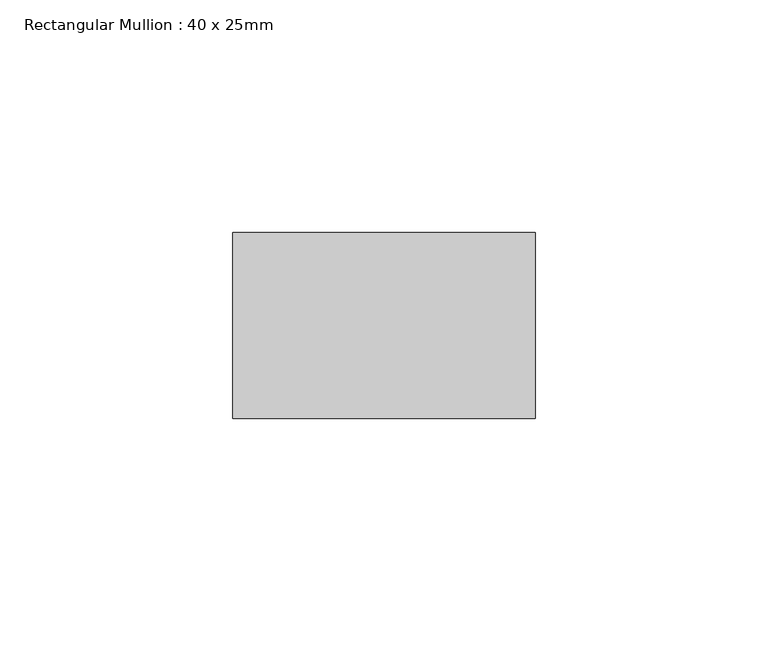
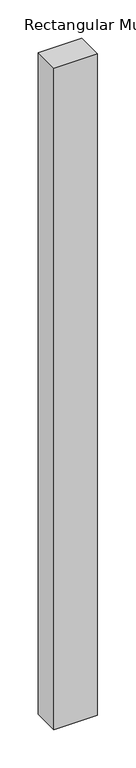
"""IFC4 building model written with IfcOpenShell, lengths in millimetres: member geometry, Rectangular Mullion : 40 x 25mm."""

from ifc_helpers import new_model, si_unit, frame, origin, place, context, project, spatial, polyline, outline, extrude, source, transform, mapped, element, save


def rectangular_mullion_40_x_25mm_e8c1a525(model_context):
    return source(origin(), model_context, "Body", "SweptSolid", [
        extrude(outline(polyline([(0.0, -20.0), (0.0, -60.0), (-65.0, -60.0), (-65.0, -20.0), (0.0, -20.0)])), frame((0.0, 0.0, -1048.555369), z_axis=(0.0, 0.0, 1.0), x_axis=(1.0, 0.0, 0.0)), (0.0, 0.0, 1.0), 1048.555369),
    ])


if __name__ == "__main__":
    model = new_model("IFC4")
    model_context = context("Model", 3, world=origin())
    ifc_project = project(units=[si_unit("LENGTHUNIT", "METRE", prefix="MILLI")], contexts=[model_context])
    site = spatial("IfcSite", under=ifc_project)
    building = spatial("IfcBuilding", under=site)
    placement = place(None, origin())
    rectangular_mullion_40_x_25mm_shape = rectangular_mullion_40_x_25mm_e8c1a525(model_context)
    element("IfcMember", 1, ObjectType="Rectangular Mullion : 40 x 25mm", at=placement, inside=building, context=model_context, shape_type="MappedRepresentation", body=[
        mapped(rectangular_mullion_40_x_25mm_shape, transform((0.0, 0.0, 0.0), x_axis=(1.0, 0.0, 0.0), y_axis=(0.0, 1.0, 0.0), z_axis=(0.0, 0.0, 1.0))),
    ])
    save(model, "model.ifc")
